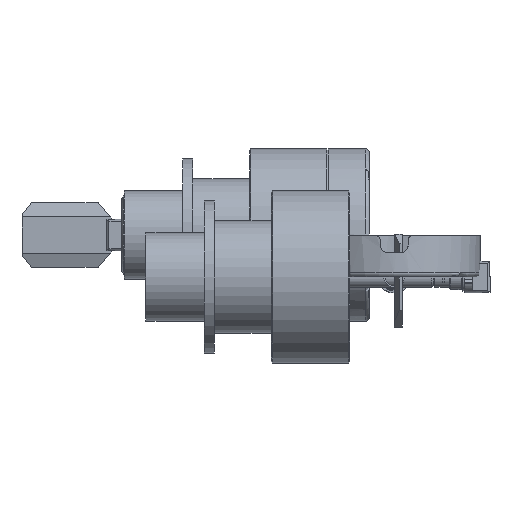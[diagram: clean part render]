
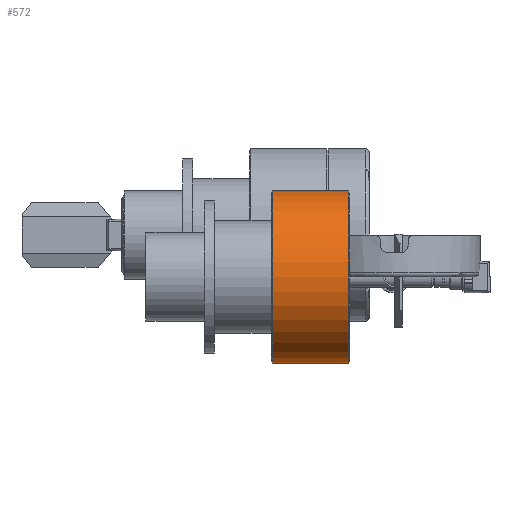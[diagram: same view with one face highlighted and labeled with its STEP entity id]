
A CAD part, left-side view. The second image highlights one B-rep face of the part: STEP entity #572.
In plain terms, the highlighted cylindrical face has radius 21.5 mm (diameter 43 mm), a full revolution.
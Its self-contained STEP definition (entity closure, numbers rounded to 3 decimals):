
#572 = ADVANCED_FACE( '', ( #913, #914 ), #915, .T. );
#913 = FACE_OUTER_BOUND( '', #1375, .T. );
#914 = FACE_OUTER_BOUND( '', #1376, .T. );
#915 = CYLINDRICAL_SURFACE( '', #1377, 21.5 );
#1375 = EDGE_LOOP( '', ( #2215 ) );
#1376 = EDGE_LOOP( '', ( #2216 ) );
#1377 = AXIS2_PLACEMENT_3D( '', #2217, #2218, #2219 );
#2215 = ORIENTED_EDGE( '', *, *, #2807, .T. );
#2216 = ORIENTED_EDGE( '', *, *, #2816, .T. );
#2217 = CARTESIAN_POINT( '', ( -71.496, 82.757, 0. ) );
#2218 = DIRECTION( '', ( 0., 1., 0. ) );
#2219 = DIRECTION( '', ( 0., 0., 1. ) );
#2807 = EDGE_CURVE( '', #3232, #3232, #3233, .T. );
#2816 = EDGE_CURVE( '', #3248, #3248, #3249, .T. );
#3232 = VERTEX_POINT( '', #3952 );
#3233 = CIRCLE( '', #3953, 21.5 );
#3248 = VERTEX_POINT( '', #3968 );
#3249 = CIRCLE( '', #3969, 21.5 );
#3952 = CARTESIAN_POINT( '', ( -71.496, 11.354, -21.5 ) );
#3953 = AXIS2_PLACEMENT_3D( '', #4698, #4699, #4700 );
#3968 = CARTESIAN_POINT( '', ( -71.496, 30.354, 21.5 ) );
#3969 = AXIS2_PLACEMENT_3D( '', #4722, #4723, #4724 );
#4698 = CARTESIAN_POINT( '', ( -71.496, 11.354, 0. ) );
#4699 = DIRECTION( '', ( 0., 1., 0. ) );
#4700 = DIRECTION( '', ( 0., 0., -1. ) );
#4722 = CARTESIAN_POINT( '', ( -71.496, 30.354, 0. ) );
#4723 = DIRECTION( '', ( 0., -1., 0. ) );
#4724 = DIRECTION( '', ( 0., 0., 1. ) );
